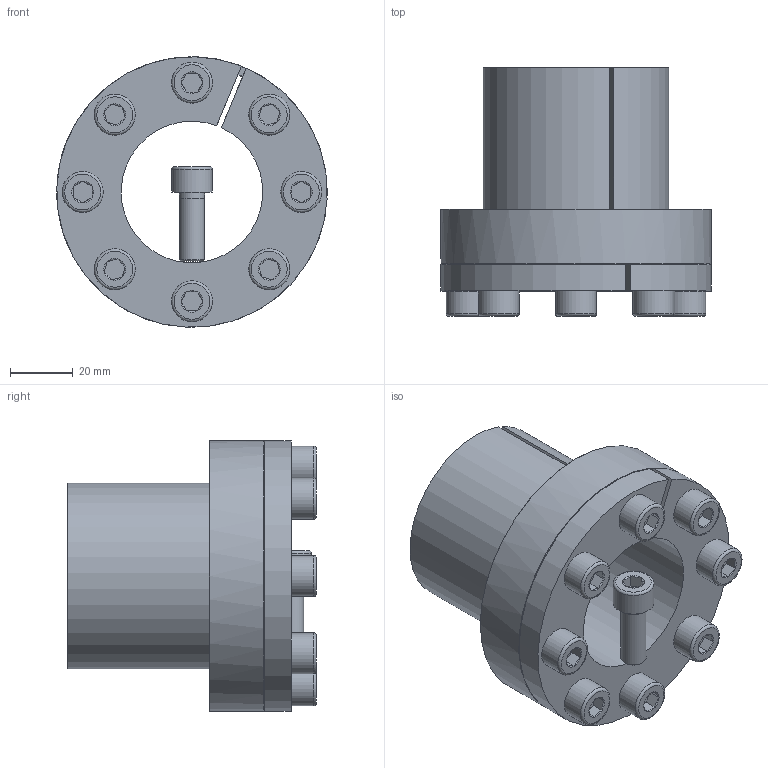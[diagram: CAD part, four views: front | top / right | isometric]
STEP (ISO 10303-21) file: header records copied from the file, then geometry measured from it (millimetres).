
FILE_DESCRIPTION( ( 'Unknown' ), '1' );
FILE_NAME( 'C:/Dokumente und Einstellungen/Sven/Desktop/homepage/cad - homepage/KBS80/KBS 80 - 45 x 59.stp', 'Unknown', ( 'Unknown' ), ( 'Unknown' ), 'XStep 1.0', 'Unknown', ' ' );
FILE_SCHEMA( ( 'automotive_design' ) );
Length unit declared in the file: millimetre
Products named in the file (10): Assem1; KBS 80 - 45 x 59; ISO EN DIN 4762 M8x22; ISO EN DIN 4762 M8x22-oa0; ISO EN DIN 4762 M8x22-oa1; ISO EN DIN 4762 M8x22-oa2; ISO EN DIN 4762 M8x22-oa3; ISO EN DIN 4762 M8x22-oa4; ISO EN DIN 4762 M8x22-oa5; ISO EN DIN 4762 M8x22-oa6
Bounding box: 86 x 79 x 86 mm (x, y, z)
Volume: 330173.5 mm3; surface area: 99022.8 mm2
Topology: 18 solids, 18 shells, 456 faces, 854 edges, 496 vertices
Faces by surface type: plane 208, cone 126, cylinder 90, torus 32
Full cylindrical faces by diameter (mm): 7 x16, 8 x48, 13 x16, 86 x2
Entity records: 5767 total; most frequent: CARTESIAN_POINT 1201, DIRECTION 932, ORIENTED_EDGE 682, AXIS2_PLACEMENT_3D 409, EDGE_LOOP 345, EDGE_CURVE 341, FACE_OUTER_BOUND 285, VERTEX_POINT 230
